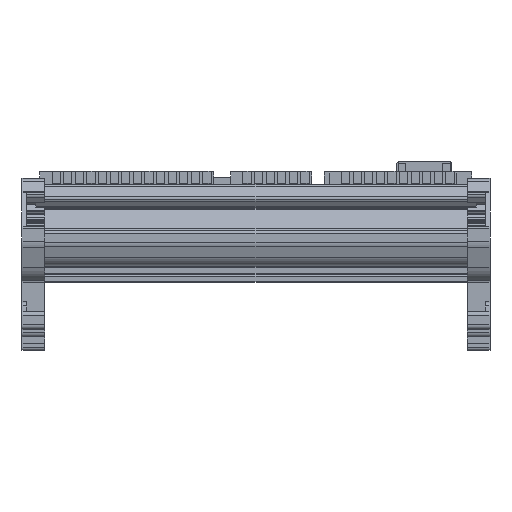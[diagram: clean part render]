
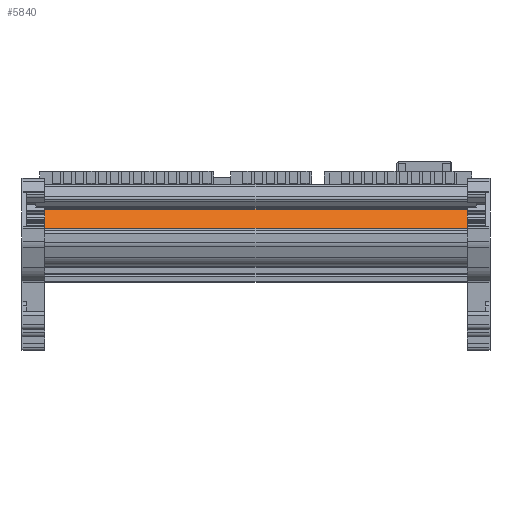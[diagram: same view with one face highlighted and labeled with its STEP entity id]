
A CAD part, front view. The second image highlights one B-rep face of the part: STEP entity #5840.
In plain terms, the highlighted planar face has unit normal (0, -0.866, 0.5).
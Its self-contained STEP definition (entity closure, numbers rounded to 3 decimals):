
#5840=ADVANCED_FACE('',(#13443),#13444,.F.);
#13443=FACE_OUTER_BOUND('',#24305,.T.);
#13444=PLANE('',#24306);
#24305=EDGE_LOOP('',(#40135,#40136,#40137,#40138));
#24306=AXIS2_PLACEMENT_3D('',#40139,#40140,#40141);
#40135=ORIENTED_EDGE('',*,*,#59371,.F.);
#40136=ORIENTED_EDGE('',*,*,#59372,.T.);
#40137=ORIENTED_EDGE('',*,*,#59373,.T.);
#40138=ORIENTED_EDGE('',*,*,#59374,.F.);
#40139=CARTESIAN_POINT('',(-49.95,-54.399,5.441));
#40140=DIRECTION('',(0.,0.866,-0.5));
#40141=DIRECTION('',(-1.0,0.0,0.));
#59371=EDGE_CURVE('',#69038,#69039,#69040,.T.);
#59372=EDGE_CURVE('',#69038,#69041,#69042,.T.);
#59373=EDGE_CURVE('',#69041,#69043,#69044,.T.);
#59374=EDGE_CURVE('',#69039,#69043,#69045,.T.);
#69038=VERTEX_POINT('',#85128);
#69039=VERTEX_POINT('',#85129);
#69040=LINE('',#85130,#85131);
#69041=VERTEX_POINT('',#85132);
#69042=LINE('',#85133,#85134);
#69043=VERTEX_POINT('',#85135);
#69044=LINE('',#85136,#85137);
#69045=LINE('',#85138,#85139);
#85128=CARTESIAN_POINT('',(-48.25,-57.449,0.158));
#85129=CARTESIAN_POINT('',(-48.25,-54.499,5.267));
#85130=CARTESIAN_POINT('',(-48.25,-67.819,-17.804));
#85131=VECTOR('',#99957,1.0);
#85132=CARTESIAN_POINT('',(48.25,-57.449,0.158));
#85133=CARTESIAN_POINT('',(-49.95,-57.449,0.158));
#85134=VECTOR('',#99958,1.0);
#85135=CARTESIAN_POINT('',(48.25,-54.499,5.267));
#85136=CARTESIAN_POINT('',(48.25,-91.923,-59.553));
#85137=VECTOR('',#99959,1.0);
#85138=CARTESIAN_POINT('',(-49.95,-54.499,5.267));
#85139=VECTOR('',#99960,1.0);
#99957=DIRECTION('',(0.,0.5,0.866));
#99958=DIRECTION('',(1.0,0.,0.));
#99959=DIRECTION('',(0.,0.5,0.866));
#99960=DIRECTION('',(1.0,0.,0.));
